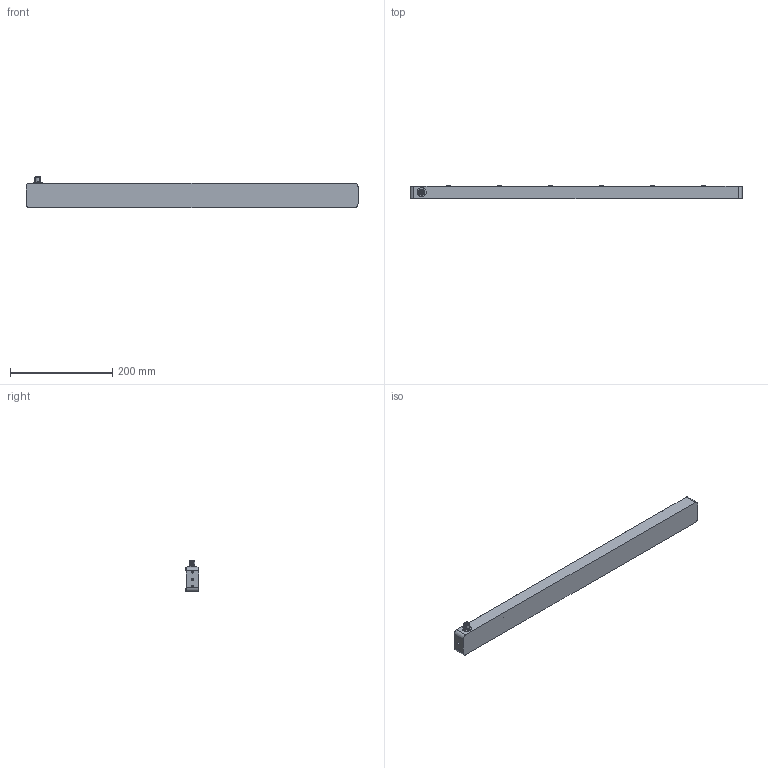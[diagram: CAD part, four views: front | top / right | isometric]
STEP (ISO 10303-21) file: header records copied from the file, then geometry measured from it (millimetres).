
FILE_DESCRIPTION (( 'STEP AP203' ), '1' );
FILE_NAME ('105815_600 (Part) (2018-01-22).STEP', '2018-01-22T19:36:35', ( '' ), ( '' ), 'SwSTEP 2.0', 'SolidWorks 2018', '' );
FILE_SCHEMA (( 'CONFIG_CONTROL_DESIGN' ));
Length unit declared in the file: millimetre
Products named in the file (1): 105815_600 (Part) (2018-01-22)
Bounding box: 650 x 26.65 x 61 mm (x, y, z)
Volume: 470300.4 mm3; surface area: 170932 mm2
Topology: 1 solids, 15 shells, 905 faces, 2334 edges, 1377 vertices
Faces by surface type: plane 409, cylinder 243, cone 141, bspline 74, sphere 24, torus 14
Entity records: 31707 total; most frequent: CARTESIAN_POINT 10730, ORIENTED_EDGE 4402, DIRECTION 4232, EDGE_CURVE 2201, AXIS2_PLACEMENT_3D 1472, VERTEX_POINT 1369, VECTOR 1288, LINE 1288
